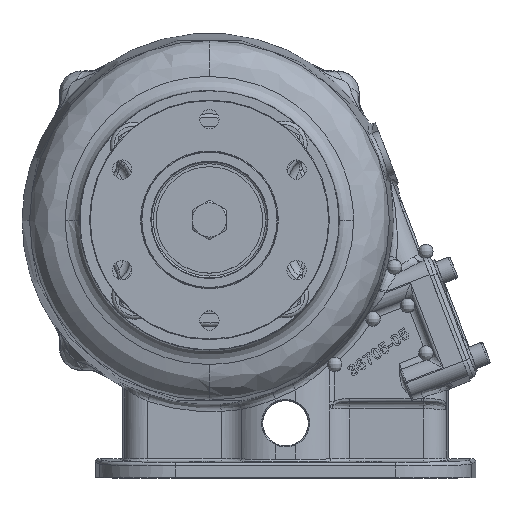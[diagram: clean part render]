
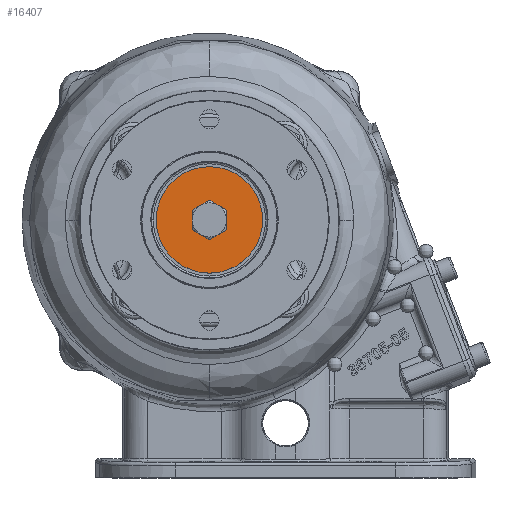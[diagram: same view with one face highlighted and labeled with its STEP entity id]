
A CAD part, top view. The second image highlights one B-rep face of the part: STEP entity #16407.
In plain terms, the highlighted planar face has unit normal (0, 0, 1) as drawn and (0, 1, 0) by its records, which use the part's own axes.
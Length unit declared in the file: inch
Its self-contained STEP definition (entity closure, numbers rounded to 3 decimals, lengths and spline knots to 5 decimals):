
#1255 = DIRECTION ( 'NONE',  ( 0., 1., 0. ) ) ;
#4964 = FACE_OUTER_BOUND ( 'NONE', #126589, .T. ) ;
#16243 = EDGE_CURVE ( 'NONE', #66565, #40070, #174733, .T. ) ;
#16407 = ADVANCED_FACE ( 'NONE', ( #4964, #56802 ), #207874, .T. ) ;
#19413 = VERTEX_POINT ( 'NONE', #152111 ) ;
#21367 = CARTESIAN_POINT ( 'NONE',  ( 0., 0.188, 0. ) ) ;
#21521 = DIRECTION ( 'NONE',  ( 0., 1., 0. ) ) ;
#25809 = VERTEX_POINT ( 'NONE', #122057 ) ;
#34113 = CIRCLE ( 'NONE', #132707, 0.203 ) ;
#36338 = EDGE_CURVE ( 'NONE', #19413, #25809, #34113, .T. ) ;
#40070 = VERTEX_POINT ( 'NONE', #215043 ) ;
#40227 = DIRECTION ( 'NONE',  ( 0., 0., 1. ) ) ;
#50629 = CIRCLE ( 'NONE', #68301, 0.203 ) ;
#56802 = FACE_BOUND ( 'NONE', #117098, .T. ) ;
#57890 = CARTESIAN_POINT ( 'NONE',  ( 0., 0.188, 0. ) ) ;
#60736 = CIRCLE ( 'NONE', #67822, 0.875 ) ;
#66565 = VERTEX_POINT ( 'NONE', #131677 ) ;
#67822 = AXIS2_PLACEMENT_3D ( 'NONE', #119161, #202957, #154469 ) ;
#68301 = AXIS2_PLACEMENT_3D ( 'NONE', #205305, #1255, #187676 ) ;
#83367 = DIRECTION ( 'NONE',  ( 0., 1., 0. ) ) ;
#88685 = DIRECTION ( 'NONE',  ( 0., 0., 1. ) ) ;
#94302 = ORIENTED_EDGE ( 'NONE', *, *, #183424, .F. ) ;
#104899 = ORIENTED_EDGE ( 'NONE', *, *, #16243, .T. ) ;
#107851 = AXIS2_PLACEMENT_3D ( 'NONE', #57890, #21521, #40227 ) ;
#117098 = EDGE_LOOP ( 'NONE', ( #146195, #94302 ) ) ;
#119161 = CARTESIAN_POINT ( 'NONE',  ( 0., 0.188, 0. ) ) ;
#120836 = CARTESIAN_POINT ( 'NONE',  ( 0., 0.188, 0. ) ) ;
#122057 = CARTESIAN_POINT ( 'NONE',  ( 0., 0.188, 0.203 ) ) ;
#126589 = EDGE_LOOP ( 'NONE', ( #104899, #153055 ) ) ;
#131677 = CARTESIAN_POINT ( 'NONE',  ( 0., 0.188, -0.875 ) ) ;
#132707 = AXIS2_PLACEMENT_3D ( 'NONE', #21367, #187946, #88685 ) ;
#146195 = ORIENTED_EDGE ( 'NONE', *, *, #36338, .F. ) ;
#152111 = CARTESIAN_POINT ( 'NONE',  ( 0., 0.188, -0.203 ) ) ;
#153055 = ORIENTED_EDGE ( 'NONE', *, *, #179884, .T. ) ;
#154469 = DIRECTION ( 'NONE',  ( 0., 0., 1. ) ) ;
#167191 = DIRECTION ( 'NONE',  ( 0., 0., 1. ) ) ;
#174733 = CIRCLE ( 'NONE', #195834, 0.875 ) ;
#179884 = EDGE_CURVE ( 'NONE', #40070, #66565, #60736, .T. ) ;
#183424 = EDGE_CURVE ( 'NONE', #25809, #19413, #50629, .T. ) ;
#187676 = DIRECTION ( 'NONE',  ( 0., 0., 1. ) ) ;
#187946 = DIRECTION ( 'NONE',  ( 0., 1., 0. ) ) ;
#195834 = AXIS2_PLACEMENT_3D ( 'NONE', #120836, #83367, #167191 ) ;
#202957 = DIRECTION ( 'NONE',  ( 0., 1., 0. ) ) ;
#205305 = CARTESIAN_POINT ( 'NONE',  ( 0., 0.188, 0. ) ) ;
#207874 = PLANE ( 'NONE',  #107851 ) ;
#215043 = CARTESIAN_POINT ( 'NONE',  ( 0., 0.188, 0.875 ) ) ;
